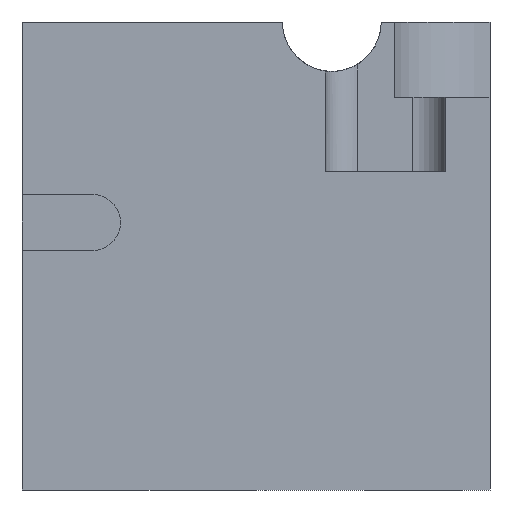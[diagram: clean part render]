
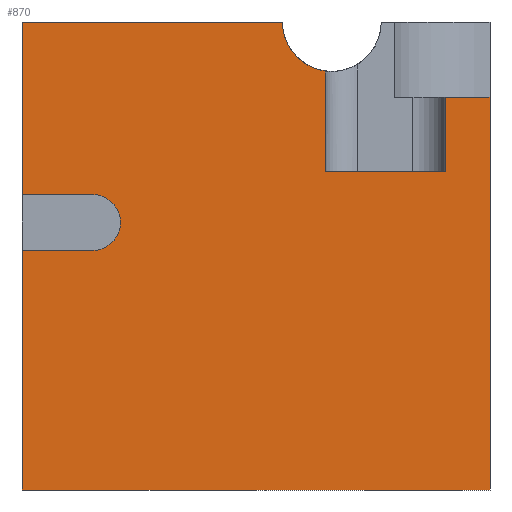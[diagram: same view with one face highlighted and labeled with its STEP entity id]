
A CAD part, left-side view. The second image highlights one B-rep face of the part: STEP entity #870.
In plain terms, the highlighted planar face has unit normal (-1, 0, 0).
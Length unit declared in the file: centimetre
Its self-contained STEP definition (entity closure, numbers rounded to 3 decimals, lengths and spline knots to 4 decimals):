
#18 = VECTOR ( 'NONE', #737, 100. ) ;
#27 = VECTOR ( 'NONE', #353, 100. ) ;
#33 = ORIENTED_EDGE ( 'NONE', *, *, #476, .F. ) ;
#34 = VERTEX_POINT ( 'NONE', #857 ) ;
#80 = CARTESIAN_POINT ( 'NONE',  ( 0., 849.2048, 571.5519 ) ) ;
#88 = CARTESIAN_POINT ( 'NONE',  ( 0., 443.6168, 1000. ) ) ;
#96 = LINE ( 'NONE', #373, #237 ) ;
#99 = VERTEX_POINT ( 'NONE', #1138 ) ;
#105 = CARTESIAN_POINT ( 'NONE',  ( 0., 1000., 1000. ) ) ;
#114 = ORIENTED_EDGE ( 'NONE', *, *, #366, .F. ) ;
#178 = AXIS2_PLACEMENT_3D ( 'NONE', #1157, #180, #710 ) ;
#180 = DIRECTION ( 'NONE',  ( 1., 0., 0. ) ) ;
#184 = VERTEX_POINT ( 'NONE', #88 ) ;
#197 = EDGE_CURVE ( 'NONE', #184, #1000, #267, .T. ) ;
#207 = EDGE_LOOP ( 'NONE', ( #405, #368, #291, #567, #114, #33, #720, #1071, #521, #724, #278, #301, #226 ) ) ;
#216 = CARTESIAN_POINT ( 'NONE',  ( 0., 1000., 511.7294 ) ) ;
#226 = ORIENTED_EDGE ( 'NONE', *, *, #941, .F. ) ;
#235 = VECTOR ( 'NONE', #725, 100. ) ;
#237 = VECTOR ( 'NONE', #540, 100. ) ;
#242 = CARTESIAN_POINT ( 'NONE',  ( 0., 0., 0. ) ) ;
#246 = DIRECTION ( 'NONE',  ( 0., 1., 0. ) ) ;
#250 = CIRCLE ( 'NONE', #864, 59.8225 ) ;
#252 = LINE ( 'NONE', #968, #453 ) ;
#263 = LINE ( 'NONE', #1105, #911 ) ;
#265 = LINE ( 'NONE', #791, #27 ) ;
#266 = EDGE_CURVE ( 'NONE', #356, #489, #265, .T. ) ;
#267 = CIRCLE ( 'NONE', #666, 105.603 ) ;
#278 = ORIENTED_EDGE ( 'NONE', *, *, #1015, .F. ) ;
#283 = VERTEX_POINT ( 'NONE', #357 ) ;
#284 = VERTEX_POINT ( 'NONE', #342 ) ;
#291 = ORIENTED_EDGE ( 'NONE', *, *, #414, .T. ) ;
#301 = ORIENTED_EDGE ( 'NONE', *, *, #738, .T. ) ;
#328 = CARTESIAN_POINT ( 'NONE',  ( 0., 1000., 680.2109 ) ) ;
#342 = CARTESIAN_POINT ( 'NONE',  ( 0., 0., 839.4348 ) ) ;
#343 = VECTOR ( 'NONE', #950, 100. ) ;
#344 = DIRECTION ( 'NONE',  ( 0., -1., 0. ) ) ;
#350 = DIRECTION ( 'NONE',  ( -1., 0., 0. ) ) ;
#353 = DIRECTION ( 'NONE',  ( 0., 0., -1. ) ) ;
#356 = VERTEX_POINT ( 'NONE', #828 ) ;
#357 = CARTESIAN_POINT ( 'NONE',  ( 0., 849.2048, 511.7294 ) ) ;
#366 = EDGE_CURVE ( 'NONE', #284, #965, #813, .T. ) ;
#368 = ORIENTED_EDGE ( 'NONE', *, *, #1123, .F. ) ;
#370 = CARTESIAN_POINT ( 'NONE',  ( 0., 0., 1000. ) ) ;
#373 = CARTESIAN_POINT ( 'NONE',  ( 0., 1000., 1000. ) ) ;
#379 = VERTEX_POINT ( 'NONE', #559 ) ;
#381 = VECTOR ( 'NONE', #417, 100. ) ;
#382 = CARTESIAN_POINT ( 'NONE',  ( 0., 1000., 0. ) ) ;
#395 = LINE ( 'NONE', #382, #410 ) ;
#405 = ORIENTED_EDGE ( 'NONE', *, *, #1074, .F. ) ;
#410 = VECTOR ( 'NONE', #910, 100. ) ;
#412 = CARTESIAN_POINT ( 'NONE',  ( 0., 1000., 1000. ) ) ;
#414 = EDGE_CURVE ( 'NONE', #1103, #379, #905, .T. ) ;
#417 = DIRECTION ( 'NONE',  ( 0., 0., -1. ) ) ;
#426 = CARTESIAN_POINT ( 'NONE',  ( 0., 849.2048, 631.3745 ) ) ;
#442 = PLANE ( 'NONE',  #178 ) ;
#453 = VECTOR ( 'NONE', #246, 100. ) ;
#466 = VERTEX_POINT ( 'NONE', #785 ) ;
#468 = LINE ( 'NONE', #835, #18 ) ;
#476 = EDGE_CURVE ( 'NONE', #356, #284, #1145, .T. ) ;
#489 = VERTEX_POINT ( 'NONE', #697 ) ;
#495 = VECTOR ( 'NONE', #344, 100. ) ;
#521 = ORIENTED_EDGE ( 'NONE', *, *, #1080, .T. ) ;
#522 = CARTESIAN_POINT ( 'NONE',  ( 0., 351.943, 895.3197 ) ) ;
#540 = DIRECTION ( 'NONE',  ( 0., -1., 0. ) ) ;
#559 = CARTESIAN_POINT ( 'NONE',  ( 0., 1000., 0. ) ) ;
#567 = ORIENTED_EDGE ( 'NONE', *, *, #1112, .T. ) ;
#571 = DIRECTION ( 'NONE',  ( 0., 0., 1. ) ) ;
#608 = LINE ( 'NONE', #412, #381 ) ;
#663 = VECTOR ( 'NONE', #990, 100. ) ;
#666 = AXIS2_PLACEMENT_3D ( 'NONE', #1149, #895, #802 ) ;
#697 = CARTESIAN_POINT ( 'NONE',  ( 0., 94.9036, 680.2109 ) ) ;
#704 = DIRECTION ( 'NONE',  ( 0., 0., -1. ) ) ;
#710 = DIRECTION ( 'NONE',  ( 0., 0., -1. ) ) ;
#720 = ORIENTED_EDGE ( 'NONE', *, *, #266, .T. ) ;
#724 = ORIENTED_EDGE ( 'NONE', *, *, #197, .F. ) ;
#725 = DIRECTION ( 'NONE',  ( 0., 0., -1. ) ) ;
#737 = DIRECTION ( 'NONE',  ( 0., -1., 0. ) ) ;
#738 = EDGE_CURVE ( 'NONE', #99, #466, #608, .T. ) ;
#785 = CARTESIAN_POINT ( 'NONE',  ( 0., 1000., 631.3745 ) ) ;
#791 = CARTESIAN_POINT ( 'NONE',  ( 0., 94.9036, 680.2109 ) ) ;
#802 = DIRECTION ( 'NONE',  ( 0., 0., 1. ) ) ;
#813 = LINE ( 'NONE', #370, #663 ) ;
#828 = CARTESIAN_POINT ( 'NONE',  ( 0., 94.9036, 839.4348 ) ) ;
#835 = CARTESIAN_POINT ( 'NONE',  ( 0., 849.2048, 511.7294 ) ) ;
#857 = CARTESIAN_POINT ( 'NONE',  ( 0., 351.943, 680.2109 ) ) ;
#864 = AXIS2_PLACEMENT_3D ( 'NONE', #80, #350, #704 ) ;
#870 = ADVANCED_FACE ( 'NONE', ( #893 ), #442, .F. ) ;
#893 = FACE_OUTER_BOUND ( 'NONE', #207, .T. ) ;
#895 = DIRECTION ( 'NONE',  ( -1., 0., 0. ) ) ;
#905 = LINE ( 'NONE', #105, #235 ) ;
#910 = DIRECTION ( 'NONE',  ( 0., -1., 0. ) ) ;
#911 = VECTOR ( 'NONE', #571, 100. ) ;
#941 = EDGE_CURVE ( 'NONE', #995, #466, #252, .T. ) ;
#950 = DIRECTION ( 'NONE',  ( 0., 1., 0. ) ) ;
#953 = EDGE_CURVE ( 'NONE', #489, #34, #1130, .T. ) ;
#965 = VERTEX_POINT ( 'NONE', #242 ) ;
#968 = CARTESIAN_POINT ( 'NONE',  ( 0., 1000., 631.3745 ) ) ;
#990 = DIRECTION ( 'NONE',  ( 0., 0., -1. ) ) ;
#995 = VERTEX_POINT ( 'NONE', #426 ) ;
#1000 = VERTEX_POINT ( 'NONE', #522 ) ;
#1015 = EDGE_CURVE ( 'NONE', #99, #184, #96, .T. ) ;
#1071 = ORIENTED_EDGE ( 'NONE', *, *, #953, .T. ) ;
#1074 = EDGE_CURVE ( 'NONE', #283, #995, #250, .T. ) ;
#1077 = CARTESIAN_POINT ( 'NONE',  ( 0., 1000., 839.4348 ) ) ;
#1080 = EDGE_CURVE ( 'NONE', #34, #1000, #263, .T. ) ;
#1103 = VERTEX_POINT ( 'NONE', #216 ) ;
#1105 = CARTESIAN_POINT ( 'NONE',  ( 0., 351.943, 680.2109 ) ) ;
#1112 = EDGE_CURVE ( 'NONE', #379, #965, #395, .T. ) ;
#1123 = EDGE_CURVE ( 'NONE', #1103, #283, #468, .T. ) ;
#1130 = LINE ( 'NONE', #328, #343 ) ;
#1138 = CARTESIAN_POINT ( 'NONE',  ( 0., 1000., 1000. ) ) ;
#1145 = LINE ( 'NONE', #1077, #495 ) ;
#1149 = CARTESIAN_POINT ( 'NONE',  ( 0., 338.0138, 1000. ) ) ;
#1157 = CARTESIAN_POINT ( 'NONE',  ( 0., 1000., 1000. ) ) ;
